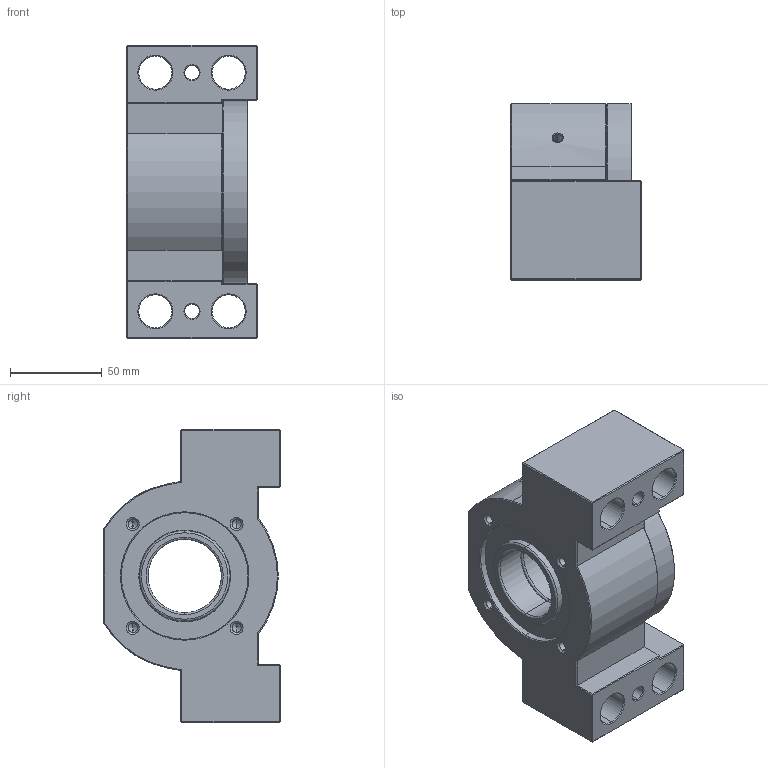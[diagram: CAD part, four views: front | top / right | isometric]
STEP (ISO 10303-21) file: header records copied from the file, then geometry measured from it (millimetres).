
FILE_DESCRIPTION (( 'STEP AP203' ), '1' );
FILE_NAME ('SBK40DF²Õ¦X.STEP', '2010-08-13T12:10:39', ( '' ), ( '' ), 'SwSTEP 2.0', 'SolidWorks 2008', '' );
FILE_SCHEMA (( 'CONFIG_CONTROL_DESIGN' ));
Length unit declared in the file: millimetre
Products named in the file (1): SBK40DF組合
Bounding box: 71 x 96 x 160 mm (x, y, z)
Volume: 560739 mm3; surface area: 162299.8 mm2
Topology: 54 solids, 54 shells, 503 faces, 1216 edges, 736 vertices
Faces by surface type: cylinder 145, cone 131, plane 105, sphere 88, torus 34
Entity records: 13056 total; most frequent: DIRECTION 2498, CARTESIAN_POINT 2257, ORIENTED_EDGE 1952, AXIS2_PLACEMENT_3D 1042, EDGE_CURVE 976, VERTEX_POINT 604, EDGE_LOOP 572, CIRCLE 538
